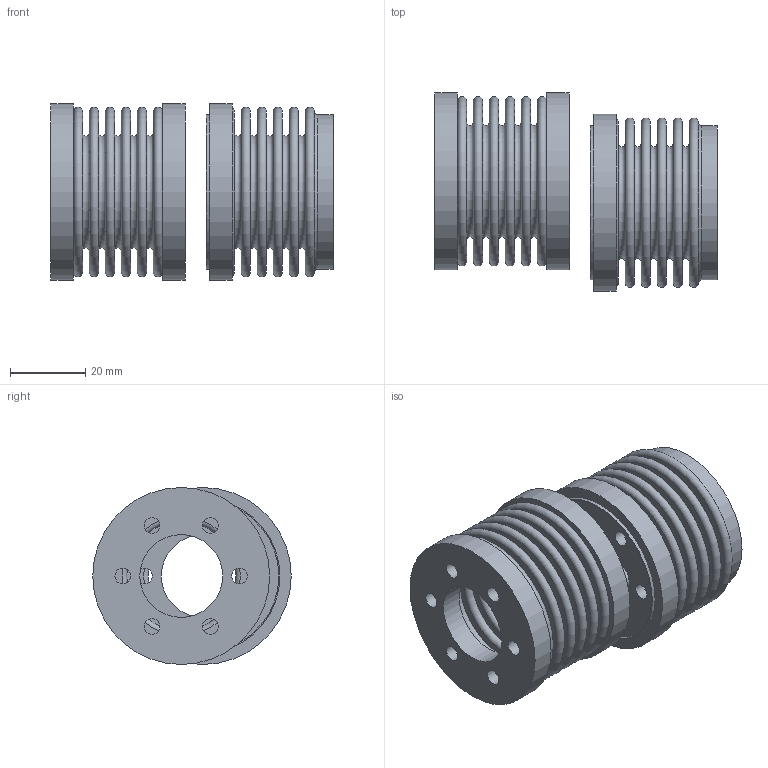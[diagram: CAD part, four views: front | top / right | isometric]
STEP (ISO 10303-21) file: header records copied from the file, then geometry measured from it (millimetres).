
FILE_DESCRIPTION( ( 'Unknown' ), '1' );
FILE_NAME( 'C:/Dokumente und Einstellungen/Sven/Desktop/homepage/cad - homepage/KB7/KB7-18-36.stp', 'Unknown', ( 'Unknown' ), ( 'Unknown' ), 'XStep 1.0', 'Unknown', ' ' );
FILE_SCHEMA( ( 'automotive_design' ) );
Length unit declared in the file: millimetre
Products named in the file (3): Assem1; BK18_Standard; FN18_Standard
Bounding box: 75.02 x 52.73 x 47 mm (x, y, z)
Volume: 30395.5 mm3; surface area: 62493.1 mm2
Topology: 5 solids, 5 shells, 134 faces, 234 edges, 154 vertices
Faces by surface type: plane 54, torus 48, cylinder 32
Full cylindrical faces by diameter (mm): 4.2 x18, 22 x3, 40.4 x4, 41 x4, 47 x3
Entity records: 1474 total; most frequent: DIRECTION 268, CARTESIAN_POINT 202, EDGE_LOOP 136, ORIENTED_EDGE 136, AXIS2_PLACEMENT_3D 134, FACE_OUTER_BOUND 98, EDGE_CURVE 68, VERTEX_POINT 68
